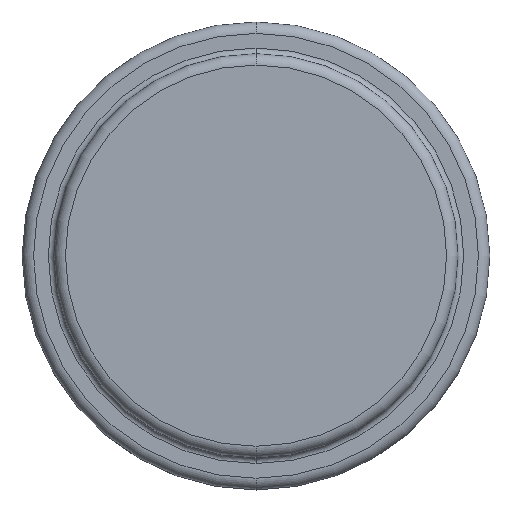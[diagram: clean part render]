
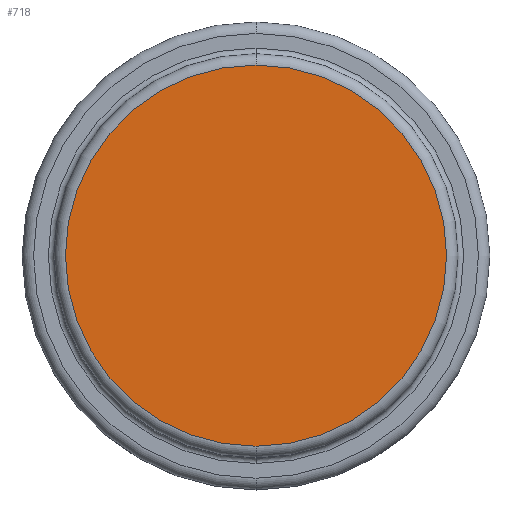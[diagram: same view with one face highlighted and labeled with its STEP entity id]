
A CAD part, top view. The second image highlights one B-rep face of the part: STEP entity #718.
In plain terms, the highlighted planar face has unit normal (0, 0, 1).
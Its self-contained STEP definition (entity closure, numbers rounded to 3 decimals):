
#58 = DIRECTION ( 'NONE',  ( 0., 0., 1. ) ) ;
#82 = AXIS2_PLACEMENT_3D ( 'NONE', #955, #58, #435 ) ;
#83 = FACE_OUTER_BOUND ( 'NONE', #271, .T. ) ;
#118 = ORIENTED_EDGE ( 'NONE', *, *, #326, .T. ) ;
#163 = DIRECTION ( 'NONE',  ( 0., 0., -1. ) ) ;
#236 = VERTEX_POINT ( 'NONE', #842 ) ;
#271 = EDGE_LOOP ( 'NONE', ( #723, #118 ) ) ;
#301 = DIRECTION ( 'NONE',  ( 0., 1., 0. ) ) ;
#318 = CARTESIAN_POINT ( 'NONE',  ( 0., 0., 50.927 ) ) ;
#326 = EDGE_CURVE ( 'NONE', #236, #932, #631, .T. ) ;
#377 = PLANE ( 'NONE',  #945 ) ;
#435 = DIRECTION ( 'NONE',  ( 0., -1., 0. ) ) ;
#538 = DIRECTION ( 'NONE',  ( 0., 0., 1. ) ) ;
#542 = EDGE_CURVE ( 'NONE', #932, #236, #680, .T. ) ;
#620 = DIRECTION ( 'NONE',  ( 0., -1., 0. ) ) ;
#631 = CIRCLE ( 'NONE', #915, 50.927 ) ;
#680 = CIRCLE ( 'NONE', #82, 50.927 ) ;
#684 = CARTESIAN_POINT ( 'NONE',  ( 0., 0., 50.927 ) ) ;
#718 = ADVANCED_FACE ( 'NONE', ( #83 ), #377, .F. ) ;
#723 = ORIENTED_EDGE ( 'NONE', *, *, #542, .T. ) ;
#842 = CARTESIAN_POINT ( 'NONE',  ( 0., 50.927, 50.927 ) ) ;
#915 = AXIS2_PLACEMENT_3D ( 'NONE', #318, #538, #620 ) ;
#932 = VERTEX_POINT ( 'NONE', #972 ) ;
#945 = AXIS2_PLACEMENT_3D ( 'NONE', #684, #163, #301 ) ;
#955 = CARTESIAN_POINT ( 'NONE',  ( 0., 0., 50.927 ) ) ;
#972 = CARTESIAN_POINT ( 'NONE',  ( 0., -50.927, 50.927 ) ) ;
